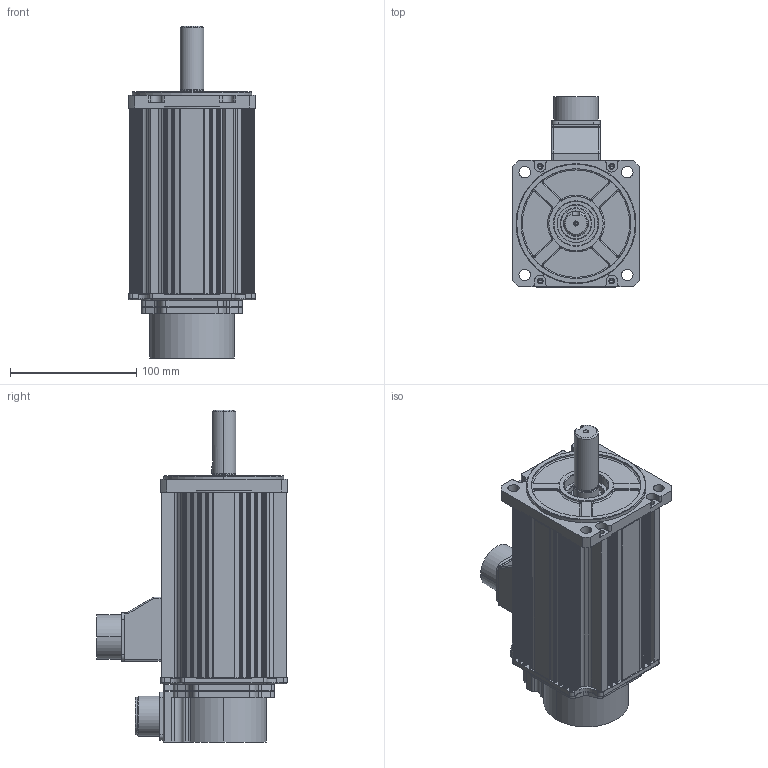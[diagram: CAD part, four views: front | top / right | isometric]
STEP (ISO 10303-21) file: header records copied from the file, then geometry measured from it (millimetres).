
FILE_DESCRIPTION (( 'STEP AP214' ), '1' );
FILE_NAME ('KANS-15B¡à1B2.STEP', '2026-09-12T00:37:49', ( '' ), ( '' ), 'SwSTEP 2.0', 'SolidWorks 2023', '' );
FILE_SCHEMA (( 'AUTOMOTIVE_DESIGN' ));
Length unit declared in the file: millimetre
Products named in the file (10): □100-147mm; 10060024(ENCODER COVER ADAPTOR,□100,□120); □100 BRACKET_BR; 1006002202 ENCODER COVER; 10050579 CONNECTOR BOX_MS20; MS3102A 20-29P; MS3102A 20_표준; Ø19-KEY6X42; KANS-15B□1B2; □100 FLANGE
Assembly tree (9 placements, depth 2):
  KANS-15B□1B2
    □100-147mm
    □100 FLANGE
    □100 BRACKET_BR
    10060024(ENCODER COVER ADAPTOR,□100,□120)
    1006002202 ENCODER COVER
    MS3102A 20-29P
    10050579 CONNECTOR BOX_MS20
    MS3102A 20_표준
    Ø19-KEY6X42
Bounding box: 100 x 150.55 x 263 mm (x, y, z)
Volume: 476860.7 mm3; surface area: 271796.5 mm2
Topology: 9 solids, 9 shells, 1787 faces, 4924 edges, 3182 vertices
Faces by surface type: plane 794, cylinder 788, torus 74, cone 64, bspline 35, sphere 32
Entity records: 58629 total; most frequent: CARTESIAN_POINT 11693, DIRECTION 10107, ORIENTED_EDGE 9728, EDGE_CURVE 4864, AXIS2_PLACEMENT_3D 3614, VERTEX_POINT 3174, LINE 2879, VECTOR 2879
